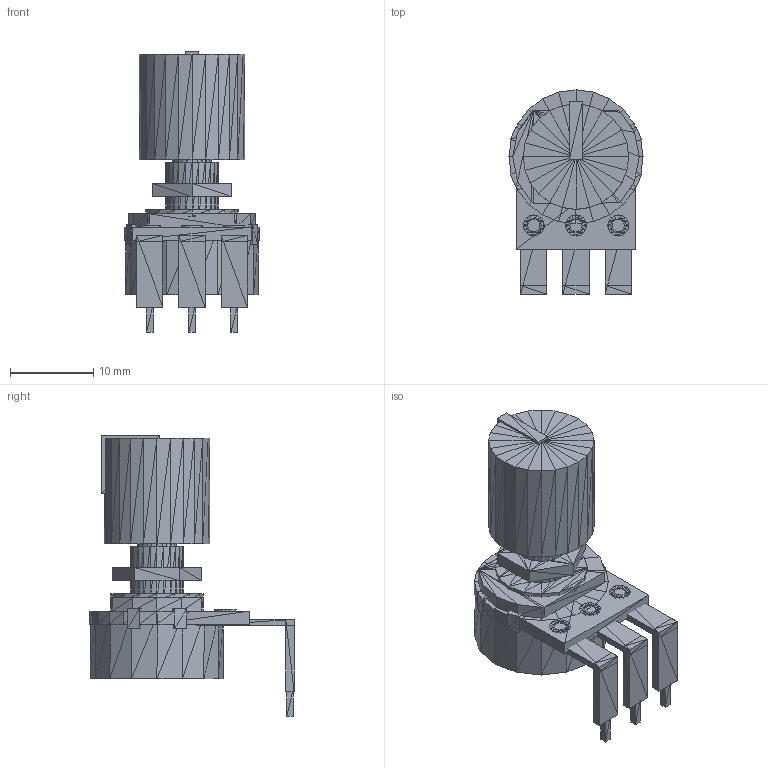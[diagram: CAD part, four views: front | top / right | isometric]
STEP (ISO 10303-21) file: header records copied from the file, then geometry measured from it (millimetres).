
FILE_DESCRIPTION(('HOOPS Exchange Step'),'2;1');
FILE_NAME('C:\Users\paulw\AppData\Local\Temp\Alibre Design\27.0.1.27039\export-8F1B9C42-BA5F-4AEF-81CE-5F43D397E15A.stp','2025-08-21T17:19:29+17:00',('paulw'),('Alibre'),'HOOPS Exchange 2023.0','Alibre','Unknown authorisation');
FILE_SCHEMA( ('AP242_MANAGED_MODEL_BASED_3D_ENGINEERING_MIM_LF {1 0 10303 442 1 1 4 }') );
Length unit declared in the file: inch
Products named in the file (27): PMTR16MM1_2; PMTR16MM1_3; PMTR16MM1_4; PMTR16MM1_5; PMTR16MM1_6; PMTR16MM1_7; PMTR16MM1_8; PMTR16MM1_9; PMTR16MM1_10; PMTR16MM1_11; PMTR16MM1_12; PMTR16MM1_13; PMTR16MM1_14; PMTR16MM1_15; PMTR16MM1_16; PMTR16MM1_17; PMTR16MM1_18; PMTR16MM1_19; PMTR16MM1_20; PMTR16MM1_21; PMTR16MM1_22; PMTR16MM1_23; PMTR16MM1_24; PMTR16MM1_25; PMTR16MM1_26; PMTR16MM1_27; PMTR16MM1
Assembly tree (26 placements, depth 2):
  PMTR16MM1
    PMTR16MM1_2
    PMTR16MM1_3
    PMTR16MM1_4
    PMTR16MM1_5
    PMTR16MM1_6
    PMTR16MM1_7
    PMTR16MM1_8
    PMTR16MM1_9
    PMTR16MM1_10
    PMTR16MM1_11
    PMTR16MM1_12
    PMTR16MM1_13
    PMTR16MM1_14
    PMTR16MM1_15
    PMTR16MM1_16
    PMTR16MM1_17
    PMTR16MM1_18
    PMTR16MM1_19
    PMTR16MM1_20
    PMTR16MM1_21
    PMTR16MM1_22
    PMTR16MM1_23
    PMTR16MM1_24
    PMTR16MM1_25
    PMTR16MM1_26
    PMTR16MM1_27
Bounding box: 16.13 x 24.57 x 33.8 mm (x, y, z)
Surface area: 9076 mm2
Topology: 3 solids, 2631 shells, 2664 faces, 3753 edges, 2829 vertices
Faces by surface type: plane 2664
Entity records: 57143 total; most frequent: CARTESIAN_POINT 9300, DIRECTION 9189, ORIENTED_EDGE 7992, VECTOR 3753, LINE 3753, EDGE_CURVE 3753, VERTEX_POINT 2829, AXIS2_PLACEMENT_3D 2718
